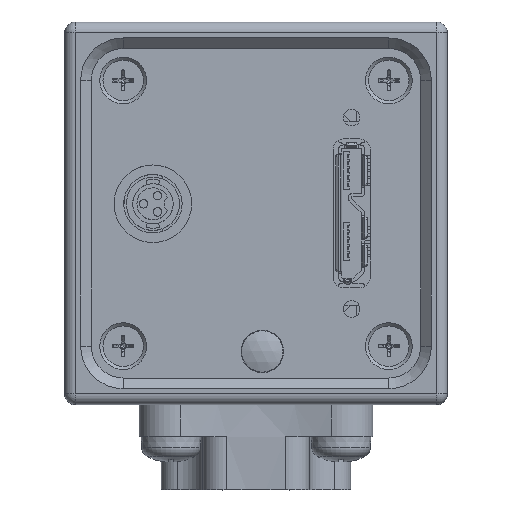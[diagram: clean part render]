
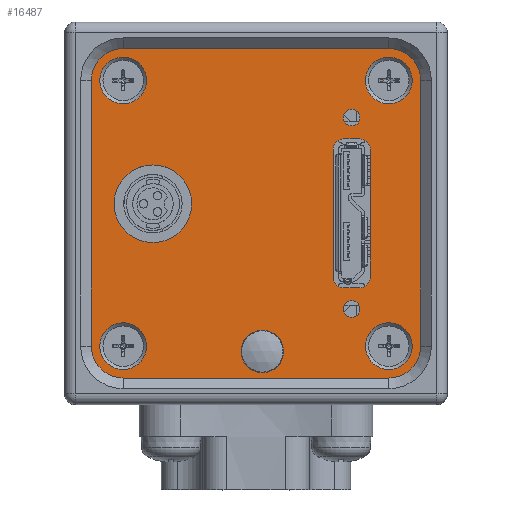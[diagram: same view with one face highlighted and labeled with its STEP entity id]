
A CAD part, top view. The second image highlights one B-rep face of the part: STEP entity #16487.
In plain terms, the highlighted planar face has unit normal (0, 0, 1).
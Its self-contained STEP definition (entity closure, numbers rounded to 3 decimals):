
#791=FACE_BOUND('',#3376,.T.);
#792=FACE_BOUND('',#3377,.T.);
#793=FACE_BOUND('',#3378,.T.);
#794=FACE_BOUND('',#3379,.T.);
#795=FACE_BOUND('',#3380,.T.);
#796=FACE_BOUND('',#3381,.T.);
#797=FACE_BOUND('',#3382,.T.);
#798=FACE_BOUND('',#3383,.T.);
#799=FACE_BOUND('',#3384,.T.);
#1368=CIRCLE('',#17840,2.);
#1392=CIRCLE('',#17881,3.65);
#1393=CIRCLE('',#17884,2.2);
#1395=CIRCLE('',#17888,2.2);
#1397=CIRCLE('',#17892,2.2);
#1399=CIRCLE('',#17896,2.2);
#1401=CIRCLE('',#17900,0.784);
#1402=CIRCLE('',#17902,0.784);
#1435=CIRCLE('',#17967,1.);
#1436=CIRCLE('',#17970,1.);
#1437=CIRCLE('',#17973,1.);
#1438=CIRCLE('',#17976,1.);
#1439=CIRCLE('',#17980,3.);
#1440=CIRCLE('',#17983,3.);
#1441=CIRCLE('',#17986,3.);
#1442=CIRCLE('',#17989,3.);
#2334=FACE_OUTER_BOUND('',#3375,.T.);
#3375=EDGE_LOOP('',(#13898,#13899,#13900,#13901,#13902,#13903,#13904,#13905));
#3376=EDGE_LOOP('',(#13906));
#3377=EDGE_LOOP('',(#13907));
#3378=EDGE_LOOP('',(#13908));
#3379=EDGE_LOOP('',(#13909));
#3380=EDGE_LOOP('',(#13910));
#3381=EDGE_LOOP('',(#13911));
#3382=EDGE_LOOP('',(#13912));
#3383=EDGE_LOOP('',(#13913));
#3384=EDGE_LOOP('',(#13914,#13915,#13916,#13917,#13918,#13919,#13920,#13921));
#4800=LINE('',#27733,#6148);
#4803=LINE('',#27741,#6151);
#4807=LINE('',#27750,#6155);
#4809=LINE('',#27756,#6157);
#4812=LINE('',#27762,#6160);
#4815=LINE('',#27770,#6163);
#4818=LINE('',#27778,#6166);
#4821=LINE('',#27786,#6169);
#6148=VECTOR('',#22200,1.5);
#6151=VECTOR('',#22209,12.);
#6155=VECTOR('',#22219,12.);
#6157=VECTOR('',#22227,1.5);
#6160=VECTOR('',#22232,25.);
#6163=VECTOR('',#22241,25.);
#6166=VECTOR('',#22250,25.);
#6169=VECTOR('',#22259,25.);
#7523=VERTEX_POINT('',#27459);
#7562=VERTEX_POINT('',#27573);
#7563=VERTEX_POINT('',#27577);
#7565=VERTEX_POINT('',#27583);
#7567=VERTEX_POINT('',#27589);
#7569=VERTEX_POINT('',#27595);
#7571=VERTEX_POINT('',#27601);
#7572=VERTEX_POINT('',#27604);
#7609=VERTEX_POINT('',#27726);
#7610=VERTEX_POINT('',#27727);
#7611=VERTEX_POINT('',#27732);
#7612=VERTEX_POINT('',#27736);
#7613=VERTEX_POINT('',#27740);
#7614=VERTEX_POINT('',#27744);
#7615=VERTEX_POINT('',#27745);
#7616=VERTEX_POINT('',#27752);
#7617=VERTEX_POINT('',#27758);
#7618=VERTEX_POINT('',#27760);
#7619=VERTEX_POINT('',#27764);
#7620=VERTEX_POINT('',#27768);
#7621=VERTEX_POINT('',#27772);
#7622=VERTEX_POINT('',#27776);
#7623=VERTEX_POINT('',#27780);
#7624=VERTEX_POINT('',#27784);
#9610=EDGE_CURVE('',#7523,#7523,#1368,.T.);
#9668=EDGE_CURVE('',#7562,#7562,#1392,.T.);
#9669=EDGE_CURVE('',#7563,#7563,#1393,.T.);
#9671=EDGE_CURVE('',#7565,#7565,#1395,.T.);
#9673=EDGE_CURVE('',#7567,#7567,#1397,.T.);
#9675=EDGE_CURVE('',#7569,#7569,#1399,.T.);
#9677=EDGE_CURVE('',#7571,#7571,#1401,.T.);
#9678=EDGE_CURVE('',#7572,#7572,#1402,.T.);
#9731=EDGE_CURVE('',#7609,#7610,#1435,.T.);
#9734=EDGE_CURVE('',#7611,#7610,#4800,.T.);
#9736=EDGE_CURVE('',#7611,#7612,#1436,.T.);
#9738=EDGE_CURVE('',#7613,#7612,#4803,.T.);
#9740=EDGE_CURVE('',#7614,#7615,#1437,.T.);
#9743=EDGE_CURVE('',#7609,#7615,#4807,.T.);
#9744=EDGE_CURVE('',#7613,#7616,#1438,.T.);
#9746=EDGE_CURVE('',#7614,#7616,#4809,.T.);
#9749=EDGE_CURVE('',#7618,#7617,#4812,.T.);
#9751=EDGE_CURVE('',#7617,#7619,#1439,.T.);
#9753=EDGE_CURVE('',#7619,#7620,#4815,.T.);
#9755=EDGE_CURVE('',#7620,#7621,#1440,.T.);
#9757=EDGE_CURVE('',#7621,#7622,#4818,.T.);
#9759=EDGE_CURVE('',#7622,#7623,#1441,.T.);
#9761=EDGE_CURVE('',#7623,#7624,#4821,.T.);
#9762=EDGE_CURVE('',#7624,#7618,#1442,.T.);
#13898=ORIENTED_EDGE('',*,*,#9753,.F.);
#13899=ORIENTED_EDGE('',*,*,#9751,.F.);
#13900=ORIENTED_EDGE('',*,*,#9749,.F.);
#13901=ORIENTED_EDGE('',*,*,#9762,.F.);
#13902=ORIENTED_EDGE('',*,*,#9761,.F.);
#13903=ORIENTED_EDGE('',*,*,#9759,.F.);
#13904=ORIENTED_EDGE('',*,*,#9757,.F.);
#13905=ORIENTED_EDGE('',*,*,#9755,.F.);
#13906=ORIENTED_EDGE('',*,*,#9610,.T.);
#13907=ORIENTED_EDGE('',*,*,#9668,.T.);
#13908=ORIENTED_EDGE('',*,*,#9669,.T.);
#13909=ORIENTED_EDGE('',*,*,#9671,.T.);
#13910=ORIENTED_EDGE('',*,*,#9673,.T.);
#13911=ORIENTED_EDGE('',*,*,#9675,.T.);
#13912=ORIENTED_EDGE('',*,*,#9677,.T.);
#13913=ORIENTED_EDGE('',*,*,#9678,.T.);
#13914=ORIENTED_EDGE('',*,*,#9746,.T.);
#13915=ORIENTED_EDGE('',*,*,#9744,.F.);
#13916=ORIENTED_EDGE('',*,*,#9738,.T.);
#13917=ORIENTED_EDGE('',*,*,#9736,.F.);
#13918=ORIENTED_EDGE('',*,*,#9734,.T.);
#13919=ORIENTED_EDGE('',*,*,#9731,.F.);
#13920=ORIENTED_EDGE('',*,*,#9743,.T.);
#13921=ORIENTED_EDGE('',*,*,#9740,.F.);
#14840=PLANE('',#17998);
#16487=ADVANCED_FACE('',(#2334,#791,#792,#793,#794,#795,#796,#797,#798,
#799),#14840,.F.);
#17840=AXIS2_PLACEMENT_3D('',#27460,#21886,#21887);
#17881=AXIS2_PLACEMENT_3D('',#27574,#22002,#22003);
#17884=AXIS2_PLACEMENT_3D('',#27578,#22008,#22009);
#17888=AXIS2_PLACEMENT_3D('',#27584,#22016,#22017);
#17892=AXIS2_PLACEMENT_3D('',#27590,#22024,#22025);
#17896=AXIS2_PLACEMENT_3D('',#27596,#22032,#22033);
#17900=AXIS2_PLACEMENT_3D('',#27602,#22040,#22041);
#17902=AXIS2_PLACEMENT_3D('',#27605,#22044,#22045);
#17967=AXIS2_PLACEMENT_3D('',#27728,#22194,#22195);
#17970=AXIS2_PLACEMENT_3D('',#27737,#22204,#22205);
#17973=AXIS2_PLACEMENT_3D('',#27746,#22213,#22214);
#17976=AXIS2_PLACEMENT_3D('',#27753,#22222,#22223);
#17980=AXIS2_PLACEMENT_3D('',#27766,#22236,#22237);
#17983=AXIS2_PLACEMENT_3D('',#27774,#22245,#22246);
#17986=AXIS2_PLACEMENT_3D('',#27782,#22254,#22255);
#17989=AXIS2_PLACEMENT_3D('',#27788,#22262,#22263);
#17998=AXIS2_PLACEMENT_3D('',#27804,#22287,#22288);
#21886=DIRECTION('center_axis',(0.,0.,-1.));
#21887=DIRECTION('ref_axis',(-1.,0.,0.));
#22002=DIRECTION('center_axis',(0.,0.,-1.));
#22003=DIRECTION('ref_axis',(1.,0.,0.));
#22008=DIRECTION('center_axis',(0.,0.,-1.));
#22009=DIRECTION('ref_axis',(1.,0.,0.));
#22016=DIRECTION('center_axis',(0.,0.,-1.));
#22017=DIRECTION('ref_axis',(1.,0.,0.));
#22024=DIRECTION('center_axis',(0.,0.,-1.));
#22025=DIRECTION('ref_axis',(1.,0.,0.));
#22032=DIRECTION('center_axis',(0.,0.,-1.));
#22033=DIRECTION('ref_axis',(1.,0.,0.));
#22040=DIRECTION('center_axis',(0.,0.,-1.));
#22041=DIRECTION('ref_axis',(1.,0.,0.));
#22044=DIRECTION('center_axis',(0.,0.,-1.));
#22045=DIRECTION('ref_axis',(1.,0.,0.));
#22194=DIRECTION('center_axis',(0.,0.,1.));
#22195=DIRECTION('ref_axis',(-0.707,-0.707,0.));
#22200=DIRECTION('',(-1.,0.,0.));
#22204=DIRECTION('center_axis',(0.,0.,1.));
#22205=DIRECTION('ref_axis',(0.707,-0.707,0.));
#22209=DIRECTION('',(0.,-1.,0.));
#22213=DIRECTION('center_axis',(0.,0.,1.));
#22214=DIRECTION('ref_axis',(-0.707,0.707,0.));
#22219=DIRECTION('',(0.,1.,0.));
#22222=DIRECTION('center_axis',(0.,0.,1.));
#22223=DIRECTION('ref_axis',(0.707,0.707,0.));
#22227=DIRECTION('',(1.,0.,0.));
#22232=DIRECTION('',(1.,0.,0.));
#22236=DIRECTION('center_axis',(0.,0.,-1.));
#22237=DIRECTION('ref_axis',(-1.,0.,0.));
#22241=DIRECTION('',(0.,-1.,0.));
#22245=DIRECTION('center_axis',(0.,0.,-1.));
#22246=DIRECTION('ref_axis',(0.,1.,0.));
#22250=DIRECTION('',(-1.,0.,0.));
#22254=DIRECTION('center_axis',(0.,0.,-1.));
#22255=DIRECTION('ref_axis',(1.,0.,0.));
#22259=DIRECTION('',(0.,1.,0.));
#22262=DIRECTION('center_axis',(0.,0.,-1.));
#22263=DIRECTION('ref_axis',(0.,-1.,0.));
#22287=DIRECTION('center_axis',(0.,0.,-1.));
#22288=DIRECTION('ref_axis',(-1.,0.,0.));
#27459=CARTESIAN_POINT('',(2.6,-13.,15.5));
#27460=CARTESIAN_POINT('Origin',(0.6,-13.,15.5));
#27573=CARTESIAN_POINT('',(-6.05,0.9,15.5));
#27574=CARTESIAN_POINT('Origin',(-9.7,0.9,15.5));
#27577=CARTESIAN_POINT('',(-10.3,-12.5,15.5));
#27578=CARTESIAN_POINT('Origin',(-12.5,-12.5,15.5));
#27583=CARTESIAN_POINT('',(-10.3,12.5,15.5));
#27584=CARTESIAN_POINT('Origin',(-12.5,12.5,15.5));
#27589=CARTESIAN_POINT('',(14.7,12.5,15.5));
#27590=CARTESIAN_POINT('Origin',(12.5,12.5,15.5));
#27595=CARTESIAN_POINT('',(14.7,-12.5,15.5));
#27596=CARTESIAN_POINT('Origin',(12.5,-12.5,15.5));
#27601=CARTESIAN_POINT('',(9.784,9.,15.5));
#27602=CARTESIAN_POINT('Origin',(9.,9.,15.5));
#27604=CARTESIAN_POINT('',(9.784,-9.,15.5));
#27605=CARTESIAN_POINT('Origin',(9.,-9.,15.5));
#27726=CARTESIAN_POINT('',(7.25,-6.,15.5));
#27727=CARTESIAN_POINT('',(8.25,-7.,15.5));
#27728=CARTESIAN_POINT('Origin',(8.25,-6.,15.5));
#27732=CARTESIAN_POINT('',(9.75,-7.,15.5));
#27733=CARTESIAN_POINT('',(5.375,-7.,15.5));
#27736=CARTESIAN_POINT('',(10.75,-6.,15.5));
#27737=CARTESIAN_POINT('Origin',(9.75,-6.,15.5));
#27740=CARTESIAN_POINT('',(10.75,6.,15.5));
#27741=CARTESIAN_POINT('',(10.75,3.5,15.5));
#27744=CARTESIAN_POINT('',(8.25,7.,15.5));
#27745=CARTESIAN_POINT('',(7.25,6.,15.5));
#27746=CARTESIAN_POINT('Origin',(8.25,6.,15.5));
#27750=CARTESIAN_POINT('',(7.25,-3.5,15.5));
#27752=CARTESIAN_POINT('',(9.75,7.,15.5));
#27753=CARTESIAN_POINT('Origin',(9.75,6.,15.5));
#27756=CARTESIAN_POINT('',(3.625,7.,15.5));
#27758=CARTESIAN_POINT('',(12.5,15.5,15.5));
#27760=CARTESIAN_POINT('',(-12.5,15.5,15.5));
#27762=CARTESIAN_POINT('',(-12.5,15.5,15.5));
#27764=CARTESIAN_POINT('',(15.5,12.5,15.5));
#27766=CARTESIAN_POINT('Origin',(12.5,12.5,15.5));
#27768=CARTESIAN_POINT('',(15.5,-12.5,15.5));
#27770=CARTESIAN_POINT('',(15.5,12.5,15.5));
#27772=CARTESIAN_POINT('',(12.5,-15.5,15.5));
#27774=CARTESIAN_POINT('Origin',(12.5,-12.5,15.5));
#27776=CARTESIAN_POINT('',(-12.5,-15.5,15.5));
#27778=CARTESIAN_POINT('',(12.5,-15.5,15.5));
#27780=CARTESIAN_POINT('',(-15.5,-12.5,15.5));
#27782=CARTESIAN_POINT('Origin',(-12.5,-12.5,15.5));
#27784=CARTESIAN_POINT('',(-15.5,12.5,15.5));
#27786=CARTESIAN_POINT('',(-15.5,-12.5,15.5));
#27788=CARTESIAN_POINT('Origin',(-12.5,12.5,15.5));
#27804=CARTESIAN_POINT('Origin',(0.,0.,
15.5));
